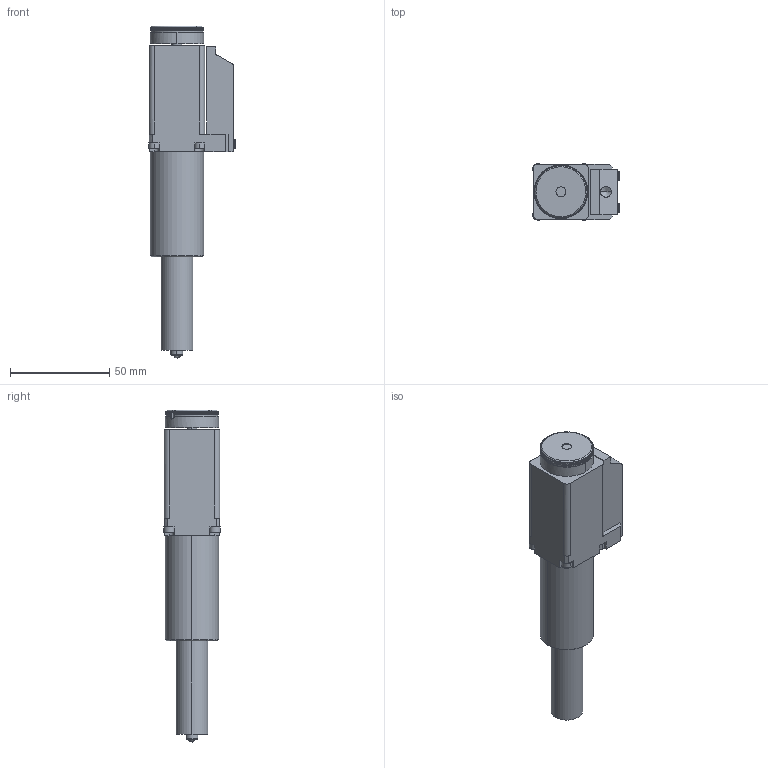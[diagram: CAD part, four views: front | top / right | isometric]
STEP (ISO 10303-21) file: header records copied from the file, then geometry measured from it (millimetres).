
FILE_DESCRIPTION (( 'STEP AP203' ), '1' );
FILE_NAME ('8MS00-25-28.STEP', '2007-10-25T06:09:09', ( 'STANDA' ), ( '' ), 'SwSTEP 2.0', 'SolidWorks 2003240', '' );
FILE_SCHEMA (( 'CONFIG_CONTROL_DESIGN' ));
Length unit declared in the file: millimetre
Products named in the file (1): 8MS00-25-28
Bounding box: 43.75 x 28.5 x 167.49 mm (x, y, z)
Volume: 97938.4 mm3; surface area: 23840.6 mm2
Topology: 1 solids, 11 shells, 1122 faces, 3048 edges, 1960 vertices
Faces by surface type: plane 484, cylinder 464, bspline 133, cone 41
Entity records: 38864 total; most frequent: CARTESIAN_POINT 11432, ORIENTED_EDGE 6036, DIRECTION 5382, EDGE_CURVE 3018, VERTEX_POINT 1960, AXIS2_PLACEMENT_3D 1938, VECTOR 1506, LINE 1506
